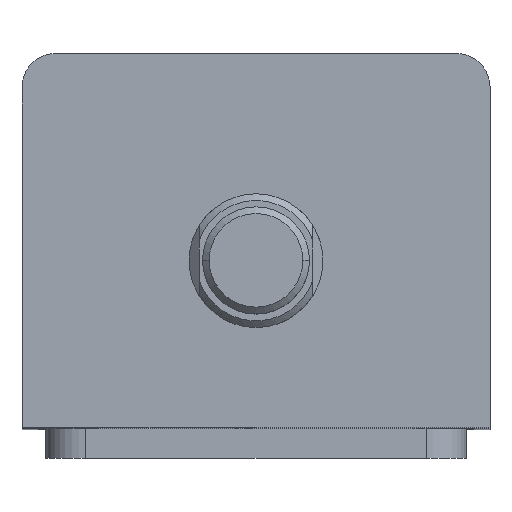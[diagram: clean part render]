
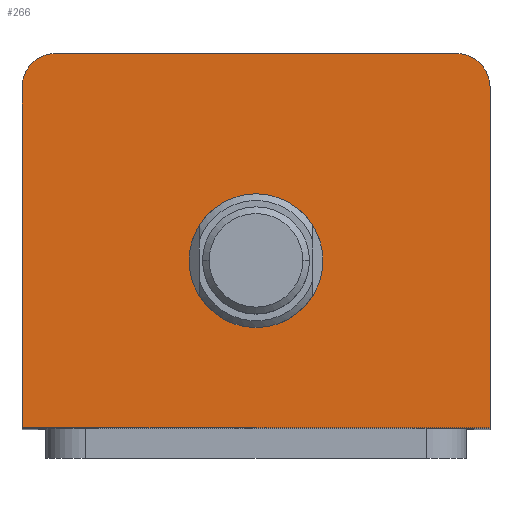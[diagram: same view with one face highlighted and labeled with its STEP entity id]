
A CAD part, top view. The second image highlights one B-rep face of the part: STEP entity #266.
In plain terms, the highlighted planar face has unit normal (0, 0, 1).
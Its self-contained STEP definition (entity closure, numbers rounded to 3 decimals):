
#1 = VERTEX_POINT ( 'NONE', #593 ) ;
#6 = VERTEX_POINT ( 'NONE', #3065 ) ;
#266 = ADVANCED_FACE ( 'NONE', ( #1272, #1278 ), #315, .T. ) ;
#312 = DIRECTION ( 'NONE',  ( 1., 0., 0. ) ) ;
#313 = DIRECTION ( 'NONE',  ( 0., 0., 1. ) ) ;
#315 = PLANE ( 'NONE',  #953 ) ;
#318 = CARTESIAN_POINT ( 'NONE',  ( 0., 0., 144. ) ) ;
#593 = CARTESIAN_POINT ( 'NONE',  ( 35., 23., 144. ) ) ;
#806 = VERTEX_POINT ( 'NONE', #2789 ) ;
#824 = VERTEX_POINT ( 'NONE', #2731 ) ;
#865 = AXIS2_PLACEMENT_3D ( 'NONE', #1875, #1874, #1872 ) ;
#868 = AXIS2_PLACEMENT_3D ( 'NONE', #1904, #1903, #1902 ) ;
#886 = AXIS2_PLACEMENT_3D ( 'NONE', #1853, #1869, #1867 ) ;
#921 = AXIS2_PLACEMENT_3D ( 'NONE', #2842, #2841, #2839 ) ;
#953 = AXIS2_PLACEMENT_3D ( 'NONE', #318, #313, #312 ) ;
#1037 = EDGE_LOOP ( 'NONE', ( #1518, #1517 ) ) ;
#1043 = EDGE_LOOP ( 'NONE', ( #1516, #1515, #1514, #1513, #1512, #1511 ) ) ;
#1272 = FACE_BOUND ( 'NONE', #1037, .T. ) ;
#1278 = FACE_OUTER_BOUND ( 'NONE', #1043, .T. ) ;
#1328 = VERTEX_POINT ( 'NONE', #2808 ) ;
#1333 = VERTEX_POINT ( 'NONE', #2949 ) ;
#1335 = VERTEX_POINT ( 'NONE', #2948 ) ;
#1340 = VERTEX_POINT ( 'NONE', #2941 ) ;
#1511 = ORIENTED_EDGE ( 'NONE', *, *, #2276, .T. ) ;
#1512 = ORIENTED_EDGE ( 'NONE', *, *, #3080, .T. ) ;
#1513 = ORIENTED_EDGE ( 'NONE', *, *, #3111, .T. ) ;
#1514 = ORIENTED_EDGE ( 'NONE', *, *, #3143, .T. ) ;
#1515 = ORIENTED_EDGE ( 'NONE', *, *, #2353, .T. ) ;
#1516 = ORIENTED_EDGE ( 'NONE', *, *, #3119, .T. ) ;
#1517 = ORIENTED_EDGE ( 'NONE', *, *, #2278, .F. ) ;
#1518 = ORIENTED_EDGE ( 'NONE', *, *, #3102, .F. ) ;
#1643 = CARTESIAN_POINT ( 'NONE',  ( -35., 28., 144. ) ) ;
#1696 = DIRECTION ( 'NONE',  ( 0., -1., 0. ) ) ;
#1766 = DIRECTION ( 'NONE',  ( -1., 0., 0. ) ) ;
#1767 = CARTESIAN_POINT ( 'NONE',  ( -35., 28., 144. ) ) ;
#1843 = DIRECTION ( 'NONE',  ( 0., 1., 0. ) ) ;
#1844 = CARTESIAN_POINT ( 'NONE',  ( 35., 28., 144. ) ) ;
#1853 = CARTESIAN_POINT ( 'NONE',  ( 30., 23., 144. ) ) ;
#1867 = DIRECTION ( 'NONE',  ( 1., 0., 0. ) ) ;
#1869 = DIRECTION ( 'NONE',  ( 0., 0., 1. ) ) ;
#1872 = DIRECTION ( 'NONE',  ( 1., 0., 0. ) ) ;
#1874 = DIRECTION ( 'NONE',  ( 0., 0., 1. ) ) ;
#1875 = CARTESIAN_POINT ( 'NONE',  ( -30., 23., 144. ) ) ;
#1902 = DIRECTION ( 'NONE',  ( 1., 0., 0. ) ) ;
#1903 = DIRECTION ( 'NONE',  ( 0., 0., 1. ) ) ;
#1904 = CARTESIAN_POINT ( 'NONE',  ( 0., -3., 144. ) ) ;
#2000 = LINE ( 'NONE', #2857, #2003 ) ;
#2003 = VECTOR ( 'NONE', #2863, 1000. ) ;
#2004 = CIRCLE ( 'NONE', #921, 10. ) ;
#2114 = CIRCLE ( 'NONE', #886, 5. ) ;
#2137 = LINE ( 'NONE', #1643, #2142 ) ;
#2142 = VECTOR ( 'NONE', #1696, 1000. ) ;
#2178 = CIRCLE ( 'NONE', #868, 10. ) ;
#2192 = CIRCLE ( 'NONE', #865, 5. ) ;
#2205 = LINE ( 'NONE', #1844, #2208 ) ;
#2208 = VECTOR ( 'NONE', #1843, 1000. ) ;
#2245 = LINE ( 'NONE', #1767, #2248 ) ;
#2248 = VECTOR ( 'NONE', #1766, 1000. ) ;
#2276 = EDGE_CURVE ( 'NONE', #1333, #1335, #2000, .T. ) ;
#2278 = EDGE_CURVE ( 'NONE', #6, #1340, #2004, .T. ) ;
#2353 = EDGE_CURVE ( 'NONE', #1, #1328, #2114, .T. ) ;
#2731 = CARTESIAN_POINT ( 'NONE',  ( -30., 28., 144. ) ) ;
#2789 = CARTESIAN_POINT ( 'NONE',  ( -35., 23., 144. ) ) ;
#2808 = CARTESIAN_POINT ( 'NONE',  ( 30., 28., 144. ) ) ;
#2839 = DIRECTION ( 'NONE',  ( 1., 0., 0. ) ) ;
#2841 = DIRECTION ( 'NONE',  ( 0., 0., 1. ) ) ;
#2842 = CARTESIAN_POINT ( 'NONE',  ( 0., -3., 144. ) ) ;
#2857 = CARTESIAN_POINT ( 'NONE',  ( -35., -28., 144. ) ) ;
#2863 = DIRECTION ( 'NONE',  ( 1., 0., 0. ) ) ;
#2941 = CARTESIAN_POINT ( 'NONE',  ( 10., -3., 144. ) ) ;
#2948 = CARTESIAN_POINT ( 'NONE',  ( 35., -28., 144. ) ) ;
#2949 = CARTESIAN_POINT ( 'NONE',  ( -35., -28., 144. ) ) ;
#3065 = CARTESIAN_POINT ( 'NONE',  ( -10., -3., 144. ) ) ;
#3080 = EDGE_CURVE ( 'NONE', #806, #1333, #2137, .T. ) ;
#3102 = EDGE_CURVE ( 'NONE', #1340, #6, #2178, .T. ) ;
#3111 = EDGE_CURVE ( 'NONE', #824, #806, #2192, .T. ) ;
#3119 = EDGE_CURVE ( 'NONE', #1335, #1, #2205, .T. ) ;
#3143 = EDGE_CURVE ( 'NONE', #1328, #824, #2245, .T. ) ;
